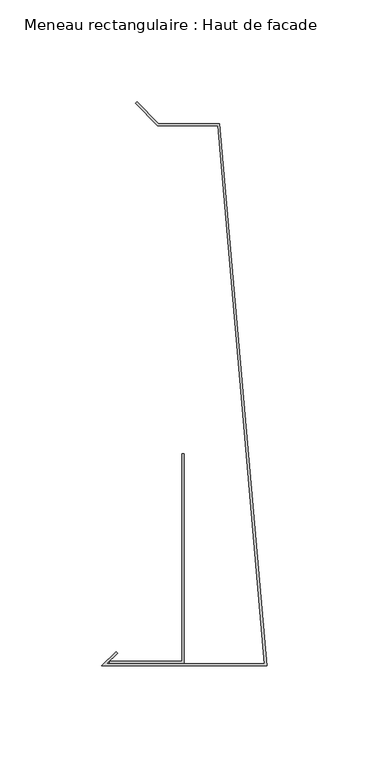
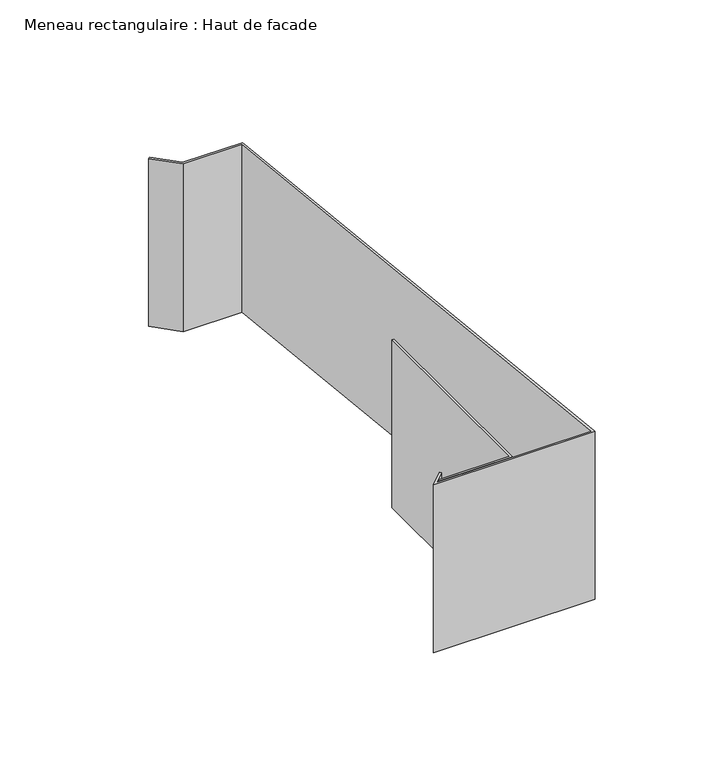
"""IFC4 building model written with IfcOpenShell, lengths in millimetres: member geometry, Meneau rectangulaire : Haut de facade."""

from ifc_helpers import new_model, si_unit, frame, origin, place, context, project, spatial, polyline, outline, extrude, source, transform, mapped, element, save


def meneau_rectangulaire_haut_de_facade_1aad9aea(model_context):
    return source(origin(), model_context, "Body", "SweptSolid", [
        extrude(outline(polyline([(-24.0647895, 160.703755), (-53.5626719, 160.703755), (-64.4621669, 171.6032499), (-63.7550601, 172.3103567), (-53.1484584, 161.703755), (-23.1484584, 161.703755), (0.0, -104.2), (-81.0, -104.2), (-73.9289322, -97.1289322), (-73.2218254, -97.836039), (-78.5857864, -103.2), (-1.0913085, -103.2), (-24.0647895, 160.703755)])), frame((0.0, 0.0, -89.0), z_axis=(0.0, 0.0, 1.0), x_axis=(1.0, 0.0, 0.0)), (0.0, 0.0, 1.0), 89.0),
        extrude(outline(polyline([(-40.5477541, -102.9846816), (-77.0752814, -102.9846816), (-77.0752814, -101.9846816), (-41.5477541, -101.9846816), (-41.5477541, -0.0384227), (-40.5477541, -0.0384227), (-40.5477541, -102.9846816)])), frame((0.0, 0.0, -89.0), z_axis=(0.0, 0.0, 1.0), x_axis=(1.0, 0.0, 0.0)), (0.0, 0.0, 1.0), 89.0),
    ])


if __name__ == "__main__":
    model = new_model("IFC4")
    model_context = context("Model", 3, world=origin())
    ifc_project = project(units=[si_unit("LENGTHUNIT", "METRE", prefix="MILLI")], contexts=[model_context])
    site = spatial("IfcSite", under=ifc_project)
    building = spatial("IfcBuilding", under=site)
    placement = place(None, origin())
    meneau_rectangulaire_haut_de_facade_shape = meneau_rectangulaire_haut_de_facade_1aad9aea(model_context)
    element("IfcMember", 1, ObjectType="Meneau rectangulaire : Haut de facade", at=placement, inside=building, context=model_context, shape_type="MappedRepresentation", body=[
        mapped(meneau_rectangulaire_haut_de_facade_shape, transform((0.0, 0.0, 0.0), x_axis=(1.0, 0.0, 0.0), y_axis=(0.0, 1.0, 0.0), z_axis=(0.0, 0.0, 1.0))),
    ])
    save(model, "model.ifc")
